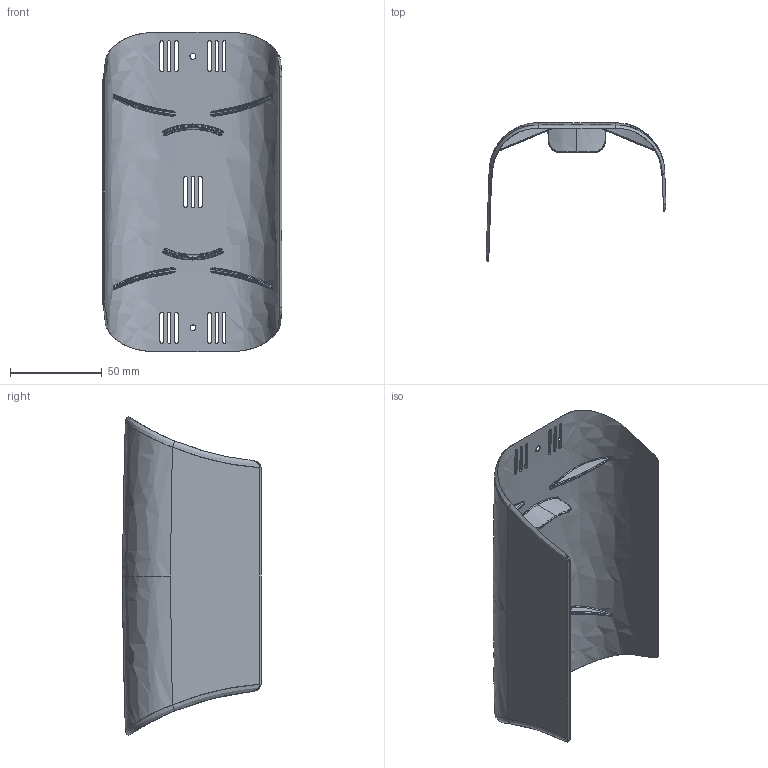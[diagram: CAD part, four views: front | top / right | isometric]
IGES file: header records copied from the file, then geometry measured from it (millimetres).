
Start section: SolidWorks IGES file using analytic representation for surfaces
Global section: file name: C:\Users\Agamemnon\Dropbox\BR-Engineering\PROJECTS\BROV2-HEAVY\MODELS\DEVELOPMENT\BROV2-HEAVY-FILES\BROV2-HEAVY-P-FAIRING-X1G.IGS; native system: SolidWorks 2016; preprocessor: SolidWorks 2016; author: Agamemnon; date: 180619.144122; units: millimetre
Bounding box: 97.91 x 75.5 x 173.65 mm (x, y, z)
Surface area: 62995.6 mm2 (no closed solid volume)
Topology: 0 solids, 0 shells, 329 faces, 3317 edges, 3316 vertices
Faces by surface type: bspline 236, revolution 93
